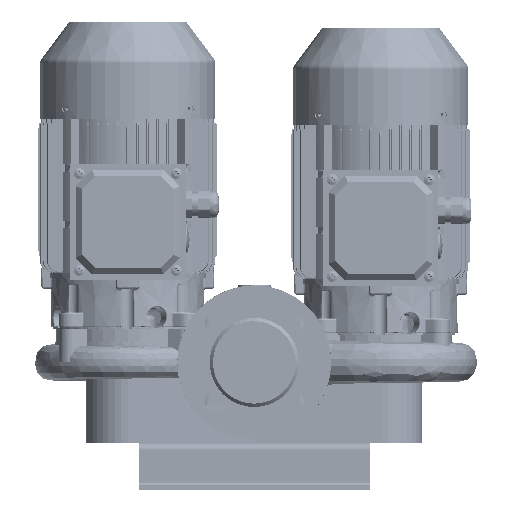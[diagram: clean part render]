
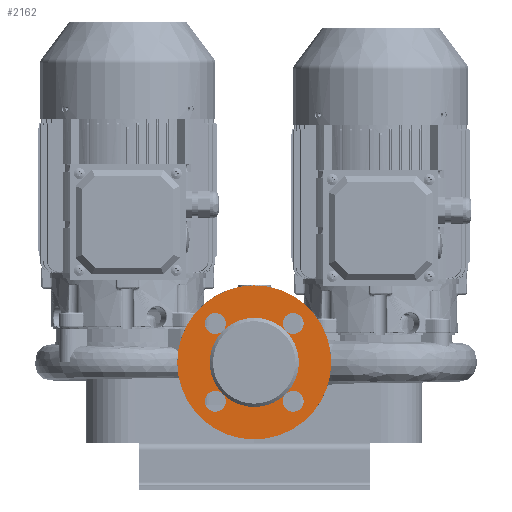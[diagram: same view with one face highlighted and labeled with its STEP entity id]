
A CAD part, front view. The second image highlights one B-rep face of the part: STEP entity #2162.
In plain terms, the highlighted planar face has unit normal (0, -1, 0) as drawn and (0, 1, 0) by its records, which use the part's own axes.
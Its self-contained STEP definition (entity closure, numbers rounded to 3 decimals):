
#2162=ADVANCED_FACE('',(#4081,#4082),#4083,.T.);
#2222=EDGE_CURVE('',#4178,#4179,#4180,.T.);
#2224=EDGE_CURVE('',#4182,#4178,#4183,.T.);
#2226=EDGE_CURVE('',#4185,#4182,#4186,.T.);
#2230=EDGE_CURVE('',#4192,#4193,#4194,.T.);
#2234=EDGE_CURVE('',#4200,#4201,#4202,.T.);
#2238=EDGE_CURVE('',#4208,#4209,#4210,.T.);
#2242=EDGE_CURVE('',#4216,#4217,#4218,.T.);
#2246=EDGE_CURVE('',#4224,#4225,#4226,.T.);
#2442=EDGE_CURVE('',#4225,#4224,#4521,.T.);
#2446=EDGE_CURVE('',#4182,#4216,#4525,.T.);
#2448=EDGE_CURVE('',#4217,#4182,#4527,.T.);
#2450=EDGE_CURVE('',#4178,#4208,#4529,.T.);
#2452=EDGE_CURVE('',#4209,#4178,#4531,.T.);
#2454=EDGE_CURVE('',#4533,#4200,#4534,.T.);
#2456=EDGE_CURVE('',#4201,#4533,#4536,.T.);
#2458=EDGE_CURVE('',#4538,#4192,#4539,.T.);
#2460=EDGE_CURVE('',#4193,#4538,#4541,.T.);
#2462=EDGE_CURVE('',#4179,#4533,#4543,.T.);
#2464=EDGE_CURVE('',#4533,#4538,#4545,.T.);
#2466=EDGE_CURVE('',#4538,#4185,#4547,.T.);
#4081=FACE_OUTER_BOUND('',#11262,.T.);
#4082=FACE_BOUND('',#11263,.T.);
#4083=PLANE('',#11264);
#4178=VERTEX_POINT('',#12167);
#4179=VERTEX_POINT('',#12168);
#4180=CIRCLE('',#12169,40.5);
#4182=VERTEX_POINT('',#12172);
#4183=CIRCLE('',#12173,40.5);
#4185=VERTEX_POINT('',#12176);
#4186=CIRCLE('',#12177,40.5);
#4192=VERTEX_POINT('',#12185);
#4193=VERTEX_POINT('',#12186);
#4194=CIRCLE('',#12187,9.5);
#4200=VERTEX_POINT('',#12195);
#4201=VERTEX_POINT('',#12196);
#4202=CIRCLE('',#12197,9.5);
#4208=VERTEX_POINT('',#12205);
#4209=VERTEX_POINT('',#12206);
#4210=CIRCLE('',#12207,9.5);
#4216=VERTEX_POINT('',#12215);
#4217=VERTEX_POINT('',#12216);
#4218=CIRCLE('',#12217,9.5);
#4224=VERTEX_POINT('',#12225);
#4225=VERTEX_POINT('',#12226);
#4226=CIRCLE('',#12227,70.0);
#4521=CIRCLE('',#12729,70.0);
#4525=CIRCLE('',#12735,9.5);
#4527=CIRCLE('',#12738,9.5);
#4529=CIRCLE('',#12741,9.5);
#4531=CIRCLE('',#12744,9.5);
#4533=VERTEX_POINT('',#12747);
#4534=CIRCLE('',#12748,9.5);
#4536=CIRCLE('',#12751,9.5);
#4538=VERTEX_POINT('',#12754);
#4539=CIRCLE('',#12755,9.5);
#4541=CIRCLE('',#12758,9.5);
#4543=CIRCLE('',#12761,40.5);
#4545=CIRCLE('',#12764,40.5);
#4547=CIRCLE('',#12767,40.5);
#11262=EDGE_LOOP('',(#21265,#21266));
#11263=EDGE_LOOP('',(#21267,#21268,#21269,#21270,#21271,#21272,#21273,#21274,#21275,#21276,#21277,#21278,#21279,#21280,#21281,#21282,#21283,#21284));
#11264=AXIS2_PLACEMENT_3D('',#21285,#21286,#21287);
#12167=CARTESIAN_POINT('',(28.638,107.0,28.638));
#12168=CARTESIAN_POINT('',(0.,107.0,40.5));
#12169=AXIS2_PLACEMENT_3D('',#21530,#21531,#21532);
#12172=CARTESIAN_POINT('',(28.638,107.0,-28.638));
#12173=AXIS2_PLACEMENT_3D('',#21533,#21534,#21535);
#12176=CARTESIAN_POINT('',(0.,107.0,-40.5));
#12177=AXIS2_PLACEMENT_3D('',#21536,#21537,#21538);
#12185=CARTESIAN_POINT('',(-40.714,107.0,-27.511));
#12186=CARTESIAN_POINT('',(-29.996,107.0,-43.2));
#12187=AXIS2_PLACEMENT_3D('',#21542,#21543,#21544);
#12195=CARTESIAN_POINT('',(-27.511,107.,40.714));
#12196=CARTESIAN_POINT('',(-43.2,107.,29.996));
#12197=AXIS2_PLACEMENT_3D('',#21548,#21549,#21550);
#12205=CARTESIAN_POINT('',(40.714,107.,27.511));
#12206=CARTESIAN_POINT('',(29.996,107.,43.2));
#12207=AXIS2_PLACEMENT_3D('',#21554,#21555,#21556);
#12215=CARTESIAN_POINT('',(27.511,107.0,-40.714));
#12216=CARTESIAN_POINT('',(43.2,107.0,-29.996));
#12217=AXIS2_PLACEMENT_3D('',#21560,#21561,#21562);
#12225=CARTESIAN_POINT('',(0.,107.0,-70.0));
#12226=CARTESIAN_POINT('',(0.,107.0,70.0));
#12227=AXIS2_PLACEMENT_3D('',#21566,#21567,#21568);
#12729=AXIS2_PLACEMENT_3D('',#21796,#21797,#21798);
#12735=AXIS2_PLACEMENT_3D('',#21802,#21803,#21804);
#12738=AXIS2_PLACEMENT_3D('',#21805,#21806,#21807);
#12741=AXIS2_PLACEMENT_3D('',#21808,#21809,#21810);
#12744=AXIS2_PLACEMENT_3D('',#21811,#21812,#21813);
#12747=CARTESIAN_POINT('',(-28.638,107.0,28.638));
#12748=AXIS2_PLACEMENT_3D('',#21814,#21815,#21816);
#12751=AXIS2_PLACEMENT_3D('',#21817,#21818,#21819);
#12754=CARTESIAN_POINT('',(-28.638,107.0,-28.638));
#12755=AXIS2_PLACEMENT_3D('',#21820,#21821,#21822);
#12758=AXIS2_PLACEMENT_3D('',#21823,#21824,#21825);
#12761=AXIS2_PLACEMENT_3D('',#21826,#21827,#21828);
#12764=AXIS2_PLACEMENT_3D('',#21829,#21830,#21831);
#12767=AXIS2_PLACEMENT_3D('',#21832,#21833,#21834);
#21265=ORIENTED_EDGE('',*,*,#2442,.F.);
#21266=ORIENTED_EDGE('',*,*,#2246,.F.);
#21267=ORIENTED_EDGE('',*,*,#2222,.T.);
#21268=ORIENTED_EDGE('',*,*,#2462,.T.);
#21269=ORIENTED_EDGE('',*,*,#2454,.T.);
#21270=ORIENTED_EDGE('',*,*,#2234,.T.);
#21271=ORIENTED_EDGE('',*,*,#2456,.T.);
#21272=ORIENTED_EDGE('',*,*,#2464,.T.);
#21273=ORIENTED_EDGE('',*,*,#2458,.T.);
#21274=ORIENTED_EDGE('',*,*,#2230,.T.);
#21275=ORIENTED_EDGE('',*,*,#2460,.T.);
#21276=ORIENTED_EDGE('',*,*,#2466,.T.);
#21277=ORIENTED_EDGE('',*,*,#2226,.T.);
#21278=ORIENTED_EDGE('',*,*,#2446,.T.);
#21279=ORIENTED_EDGE('',*,*,#2242,.T.);
#21280=ORIENTED_EDGE('',*,*,#2448,.T.);
#21281=ORIENTED_EDGE('',*,*,#2224,.T.);
#21282=ORIENTED_EDGE('',*,*,#2450,.T.);
#21283=ORIENTED_EDGE('',*,*,#2238,.T.);
#21284=ORIENTED_EDGE('',*,*,#2452,.T.);
#21285=CARTESIAN_POINT('',(0.,107.0,-55.25));
#21286=DIRECTION('',(0.0,1.0,0.0));
#21287=DIRECTION('',(0.0,0.0,1.0));
#21530=CARTESIAN_POINT('',(0.,107.0,0.));
#21531=DIRECTION('',(0.0,-1.0,0.0));
#21532=DIRECTION('',(0.0,0.0,-1.0));
#21533=CARTESIAN_POINT('',(0.,107.0,0.));
#21534=DIRECTION('',(0.0,-1.0,0.0));
#21535=DIRECTION('',(0.0,0.0,-1.0));
#21536=CARTESIAN_POINT('',(0.,107.0,0.));
#21537=DIRECTION('',(0.0,-1.0,0.0));
#21538=DIRECTION('',(0.0,0.0,-1.0));
#21542=CARTESIAN_POINT('',(-35.355,107.0,-35.355));
#21543=DIRECTION('',(0.0,-1.0,0.0));
#21544=DIRECTION('',(-0.564,0.0,0.826));
#21548=CARTESIAN_POINT('',(-35.355,107.,35.355));
#21549=DIRECTION('',(0.0,-1.0,0.0));
#21550=DIRECTION('',(0.826,0.0,0.564));
#21554=CARTESIAN_POINT('',(35.355,107.,35.355));
#21555=DIRECTION('',(0.0,-1.0,0.0));
#21556=DIRECTION('',(0.564,0.0,-0.826));
#21560=CARTESIAN_POINT('',(35.355,107.0,-35.355));
#21561=DIRECTION('',(0.0,-1.0,-0.0));
#21562=DIRECTION('',(-0.826,0.0,-0.564));
#21566=CARTESIAN_POINT('',(0.,107.0,0.));
#21567=DIRECTION('',(0.0,-1.0,0.0));
#21568=DIRECTION('',(0.0,0.0,-1.0));
#21796=CARTESIAN_POINT('',(0.,107.0,0.));
#21797=DIRECTION('',(0.0,-1.0,0.0));
#21798=DIRECTION('',(0.0,0.0,-1.0));
#21802=CARTESIAN_POINT('',(35.355,107.0,-35.355));
#21803=DIRECTION('',(0.0,-1.0,-0.0));
#21804=DIRECTION('',(-0.826,0.0,-0.564));
#21805=CARTESIAN_POINT('',(35.355,107.0,-35.355));
#21806=DIRECTION('',(0.0,-1.0,-0.0));
#21807=DIRECTION('',(-0.826,0.0,-0.564));
#21808=CARTESIAN_POINT('',(35.355,107.,35.355));
#21809=DIRECTION('',(0.0,-1.0,0.0));
#21810=DIRECTION('',(0.564,0.0,-0.826));
#21811=CARTESIAN_POINT('',(35.355,107.,35.355));
#21812=DIRECTION('',(0.0,-1.0,0.0));
#21813=DIRECTION('',(0.564,0.0,-0.826));
#21814=CARTESIAN_POINT('',(-35.355,107.,35.355));
#21815=DIRECTION('',(0.0,-1.0,0.0));
#21816=DIRECTION('',(0.826,0.0,0.564));
#21817=CARTESIAN_POINT('',(-35.355,107.,35.355));
#21818=DIRECTION('',(0.0,-1.0,0.0));
#21819=DIRECTION('',(0.826,0.0,0.564));
#21820=CARTESIAN_POINT('',(-35.355,107.0,-35.355));
#21821=DIRECTION('',(0.0,-1.0,0.0));
#21822=DIRECTION('',(-0.564,0.0,0.826));
#21823=CARTESIAN_POINT('',(-35.355,107.0,-35.355));
#21824=DIRECTION('',(0.0,-1.0,0.0));
#21825=DIRECTION('',(-0.564,0.0,0.826));
#21826=CARTESIAN_POINT('',(0.,107.0,0.));
#21827=DIRECTION('',(0.0,-1.0,0.0));
#21828=DIRECTION('',(0.0,0.0,-1.0));
#21829=CARTESIAN_POINT('',(0.,107.0,0.));
#21830=DIRECTION('',(0.0,-1.0,0.0));
#21831=DIRECTION('',(0.0,0.0,-1.0));
#21832=CARTESIAN_POINT('',(0.,107.0,0.));
#21833=DIRECTION('',(0.0,-1.0,0.0));
#21834=DIRECTION('',(0.0,0.0,-1.0));
